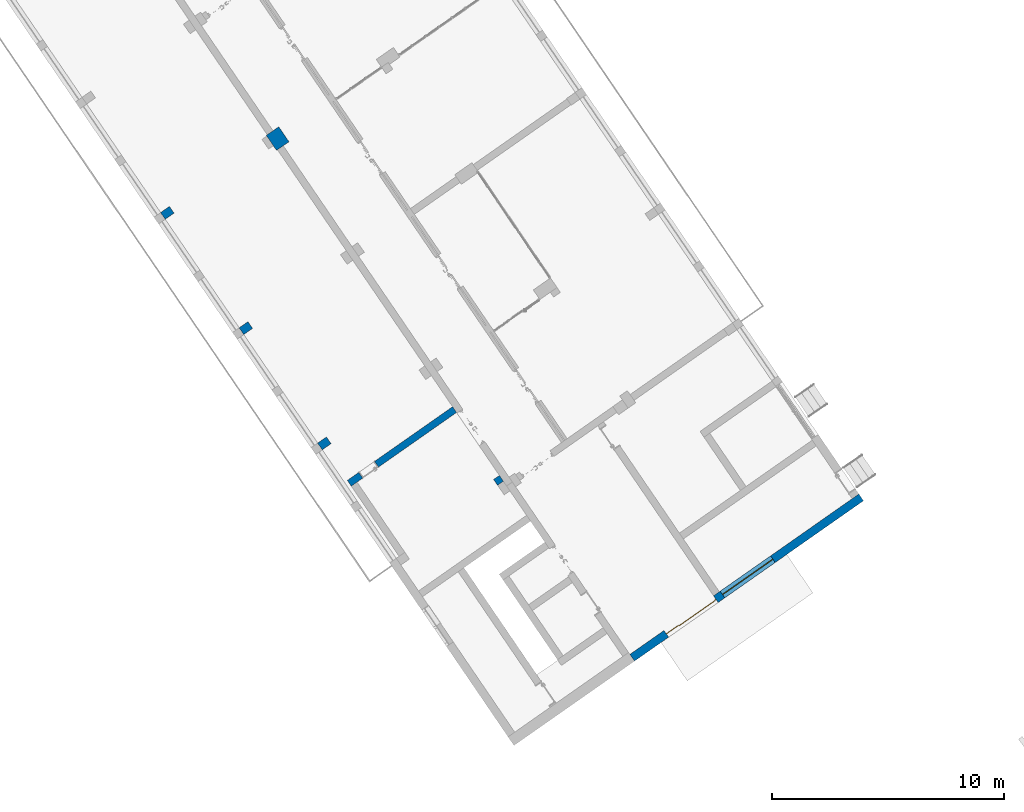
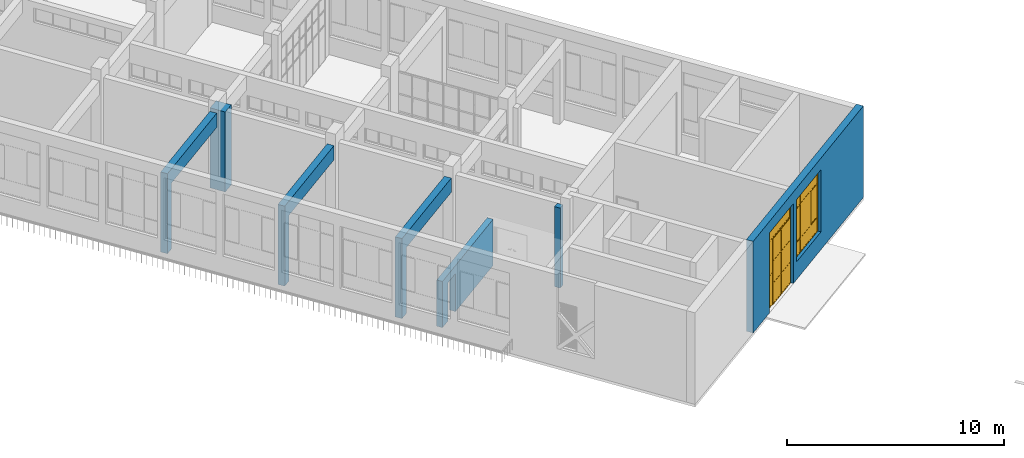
# One storey, part 62 of 157: 7 walls, 2 windows, 6 openings.
"""IFC2X3 building model written with IfcOpenShell, lengths in millimetres."""

import ifcopenshell
import ifcopenshell.guid

model = None  # the IFC model being written
_history = None  # IfcOwnerHistory: only IFC2X3 demands one
_inside = {}  # id of a spatial element -> (the spatial element, [elements in it])
_under = {}  # id of a project, library or spatial element -> (it, [spatial elements below it])
_declared = {}  # id of a project -> (the project, [libraries it declares])
_typed = {}  # id of a type object -> (the type object, [elements of that type])
_made_of = {}  # id of a material, layer set ... -> (it, [elements and type objects made of it])


def new_model(schema):
    """Start an empty IFC model of exactly this schema.

    Asked for "IFC4X3", IfcOpenShell would pick the latest addendum, in which some entities
    have other attributes; the version numbers below select the first issue.
    IFC2X3 requires an IfcOwnerHistory on every rooted entity: one is made here for all.
    """
    global model, _history
    if schema == "IFC4X3":
        model = ifcopenshell.file(schema_version=(4, 3, 0, 0))
    else:
        model = ifcopenshell.file(schema=schema)
    _inside.clear()
    _under.clear()
    _declared.clear()
    _typed.clear()
    _made_of.clear()
    _history = None
    if model.schema == "IFC2X3":
        org = make("IfcOrganization", Name="unknown")
        user = make(
            "IfcPersonAndOrganization",
            ThePerson=make("IfcPerson", FamilyName="unknown"),
            TheOrganization=org,
        )
        app = make(
            "IfcApplication",
            ApplicationDeveloper=org,
            Version="unknown",
            ApplicationFullName="unknown",
            ApplicationIdentifier="unknown",
        )
        _history = make(
            "IfcOwnerHistory",
            OwningUser=user,
            OwningApplication=app,
            ChangeAction="ADDED",
            CreationDate=0,
        )
    return model


def make(cls, **values):
    """One entity of the class cls with the attributes given. An attribute that is None is left unset."""
    return model.create_entity(
        cls, **{name: value for name, value in values.items() if value is not None}
    )


def entity(cls, *values):
    """Any entity or typed value of the class cls, its attributes in the order of the schema. None: left unset."""
    e = model.create_entity(cls)
    for i, value in enumerate(values):
        if value is not None:
            e[i] = value
    return e


def rooted(cls, **values):
    """An entity with a GlobalId (a new one), such as an element, a storey or a relation."""
    return make(cls, GlobalId=ifcopenshell.guid.new(), OwnerHistory=_history, **values)


def si_unit(unit_type, name, prefix=None):
    """IfcSIUnit, for example si_unit("LENGTHUNIT", "METRE", prefix="MILLI")."""
    return make("IfcSIUnit", UnitType=unit_type, Prefix=prefix, Name=name)


def converted_unit(unit_type, name, factor, base, dimensions=None, offset=None):
    """IfcConversionBasedUnit, such as the inch: factor (a typed value) times the base unit."""
    return make(
        "IfcConversionBasedUnit"
        if offset is None
        else "IfcConversionBasedUnitWithOffset",
        ConversionOffset=offset,
        Dimensions=None
        if dimensions is None
        else entity("IfcDimensionalExponents", *dimensions),
        UnitType=unit_type,
        Name=name,
        ConversionFactor=make(
            "IfcMeasureWithUnit", ValueComponent=factor, UnitComponent=base
        ),
    )


def derived_unit(unit_type, elements):
    """IfcDerivedUnit: a product of units, each with its exponent."""
    return make(
        "IfcDerivedUnit",
        Elements=[
            make("IfcDerivedUnitElement", Unit=unit, Exponent=power)
            for unit, power in elements
        ],
        UnitType=unit_type,
    )


def assignment(units):
    """IfcUnitAssignment: the units of a project."""
    return None if units is None else make("IfcUnitAssignment", Units=units)


def point(xyz):
    """IfcCartesianPoint."""
    return None if xyz is None else make("IfcCartesianPoint", Coordinates=xyz)


def direction(xyz):
    """IfcDirection."""
    return None if xyz is None else make("IfcDirection", DirectionRatios=xyz)


def frame(location, z_axis=None, x_axis=None):
    """IfcAxis2Placement3D, a coordinate frame: its origin and axes. An axis left out is left unset."""
    return make(
        "IfcAxis2Placement3D",
        Location=point(location),
        Axis=direction(z_axis),
        RefDirection=direction(x_axis),
    )


def frame_2d(location, x_axis=None):
    """IfcAxis2Placement2D, a coordinate frame in the plane: its origin and x axis."""
    return make(
        "IfcAxis2Placement2D", Location=point(location), RefDirection=direction(x_axis)
    )


def origin():
    """The frame at (0, 0, 0) with its axes left unset."""
    return frame((0.0, 0.0, 0.0))


def origin_2d_with_axis():
    """The frame at (0, 0) in the plane with the x axis (1, 0) written out."""
    return frame_2d((0.0, 0.0), x_axis=(1.0, 0.0))


def place(relative_to, where):
    """IfcLocalPlacement: puts the frame where relative to a parent placement (None: the world)."""
    return make(
        "IfcLocalPlacement", PlacementRelTo=relative_to, RelativePlacement=where
    )


def context(
    kind, dimensions, precision=None, world=None, true_north=None, identifier=None
):
    """IfcGeometricRepresentationContext, for example the 3D "Model" context."""
    return make(
        "IfcGeometricRepresentationContext",
        ContextIdentifier=identifier,
        ContextType=kind,
        CoordinateSpaceDimension=dimensions,
        Precision=precision,
        WorldCoordinateSystem=world,
        TrueNorth=true_north,
    )


def subcontext(parent, identifier, kind, view, scale=None):
    """IfcGeometricRepresentationSubContext, for example "Body" below "Model"."""
    return make(
        "IfcGeometricRepresentationSubContext",
        ContextIdentifier=identifier,
        ContextType=kind,
        ParentContext=parent,
        TargetScale=scale,
        TargetView=view,
    )


def project(units=None, contexts=None):
    """IfcProject with its units and contexts."""
    return rooted(
        "IfcProject",
        Name="project",
        RepresentationContexts=contexts,
        UnitsInContext=assignment(units),
    )


def spatial(cls, under=None, at=None, **own):
    """A site, building, storey or space (cls), placed at a placement, below another one or the project."""
    s = rooted(cls, ObjectPlacement=at, **own)
    if under is not None:
        _under.setdefault(under.id(), (under, []))[1].append(s)
    return s


def polyline(points):
    """IfcPolyline through the points."""
    return make("IfcPolyline", Points=[point(p) for p in points])


def profile(cls, at=None, kind="AREA", **sizes):
    """A parametric profile (cls). Its sizes go by their IFC names, for example OverallWidth=200.0."""
    return make(cls, ProfileType=kind, Position=at, **sizes)


def rectangle(**sizes):
    """IfcRectangleProfileDef."""
    return profile("IfcRectangleProfileDef", **sizes)


def outline(outer, holes=None, kind="AREA"):
    """IfcArbitraryClosedProfileDef: a profile drawn as a closed curve; with holes, ...WithVoids."""
    if holes is None:
        return make("IfcArbitraryClosedProfileDef", ProfileType=kind, OuterCurve=outer)
    return make(
        "IfcArbitraryProfileDefWithVoids",
        ProfileType=kind,
        OuterCurve=outer,
        InnerCurves=holes,
    )


def extrude(swept, where, along, depth):
    """IfcExtrudedAreaSolid: the profile swept, set in the frame where, extruded along a direction by depth."""
    return make(
        "IfcExtrudedAreaSolid",
        SweptArea=swept,
        Position=where,
        ExtrudedDirection=direction(along),
        Depth=depth,
    )


def shape(context_of_items, identifier, shape_type, items):
    """IfcShapeRepresentation: the items that make up one representation, for example the "Body"."""
    return make(
        "IfcShapeRepresentation",
        ContextOfItems=context_of_items,
        RepresentationIdentifier=identifier,
        RepresentationType=shape_type,
        Items=items,
    )


def source(mapping_origin, context_of_items, identifier, shape_type, items):
    """IfcRepresentationMap: a shape defined once, which mapped items show again and again."""
    return make(
        "IfcRepresentationMap",
        MappingOrigin=mapping_origin,
        MappedRepresentation=shape(context_of_items, identifier, shape_type, items),
    )


def transform(
    local_origin,
    x_axis=None,
    y_axis=None,
    z_axis=None,
    scale=None,
    scale2=None,
    scale3=None,
    uniform=True,
):
    """IfcCartesianTransformationOperator3D, or its non-uniform kind. x_axis, y_axis, z_axis: its Axis1, 2, 3."""
    if uniform:
        return make(
            "IfcCartesianTransformationOperator3D",
            Axis1=direction(x_axis),
            Axis2=direction(y_axis),
            LocalOrigin=point(local_origin),
            Scale=scale,
            Axis3=direction(z_axis),
        )
    return make(
        "IfcCartesianTransformationOperator3DnonUniform",
        Axis1=direction(x_axis),
        Axis2=direction(y_axis),
        LocalOrigin=point(local_origin),
        Scale=scale,
        Axis3=direction(z_axis),
        Scale2=scale2,
        Scale3=scale3,
    )


def mapped(mapping_source, mapping_target):
    """IfcMappedItem: shows the shape of a source again, moved by a transform."""
    return make(
        "IfcMappedItem", MappingSource=mapping_source, MappingTarget=mapping_target
    )


def material(Name=None, Category=None):
    """IfcMaterial."""
    return make("IfcMaterial", Name=Name, Category=Category)


def material_list(materials):
    """IfcMaterialList."""
    return make("IfcMaterialList", Materials=materials)


def layer(
    of_material, thickness, ventilated=None, Name=None, Category=None, Priority=None
):
    """IfcMaterialLayer: one layer of a wall or slab, of a material (None: an air gap)."""
    return make(
        "IfcMaterialLayer",
        Material=of_material,
        LayerThickness=thickness,
        IsVentilated=ventilated,
        Name=Name,
        Category=Category,
        Priority=Priority,
    )


def layer_set(layers, Name=None):
    """IfcMaterialLayerSet."""
    return make("IfcMaterialLayerSet", MaterialLayers=layers, LayerSetName=Name)


def layer_usage(for_layer_set, set_direction, sense, offset, extent=None):
    """IfcMaterialLayerSetUsage: how a layer set lies in its element."""
    return make(
        "IfcMaterialLayerSetUsage",
        ForLayerSet=for_layer_set,
        LayerSetDirection=set_direction,
        DirectionSense=sense,
        OffsetFromReferenceLine=offset,
        ReferenceExtent=extent,
    )


def made_of(thing, what):
    """Note that an element or type object is made of a material, layer set ...; save() writes the relation."""
    if what is not None:
        _made_of.setdefault(what.id(), (what, []))[1].append(thing)
    return thing


def type_object(cls, material=None, **own):
    """A type object (cls), such as IfcWallType, which elements share."""
    return made_of(rooted(cls, **own), material)


def type_shapes(of_type, sources):
    """Give a type object the sources (RepresentationMaps) that its elements show as mapped items."""
    of_type.RepresentationMaps = sources


def element(
    cls,
    number,
    at=None,
    inside=None,
    cuts=None,
    type_object=None,
    material=None,
    context=None,
    identifier="Body",
    shape_type=None,
    held_by="IfcProductDefinitionShape",
    body=None,
    shapes=None,
    **own,
):
    """One element of the class cls, such as IfcWall. Its Tag is "e" and its number.

    at: its placement. inside: the storey or other place that contains it. cuts: it is an
    opening in that element (IfcRelVoidsElement). A single representation is given by context,
    identifier, shape_type and body (its items); several are given by shapes. held_by: the class
    of the entity that holds the representations. save() writes the other relations.
    """
    e = rooted(cls, Tag="e%d" % number, ObjectPlacement=at, **own)
    if body is not None:
        shapes = [shape(context, identifier, shape_type, body)]
    if shapes is not None:
        e.Representation = make(held_by, Representations=shapes)
    if inside is not None:
        _inside.setdefault(inside.id(), (inside, []))[1].append(e)
    if cuts is not None:
        rooted(
            "IfcRelVoidsElement", RelatingBuildingElement=cuts, RelatedOpeningElement=e
        )
    if type_object is not None:
        _typed.setdefault(type_object.id(), (type_object, []))[1].append(e)
    return made_of(e, material)


def fill(opening, filler):
    """IfcRelFillsElement: the door or window that sits in an opening."""
    return rooted(
        "IfcRelFillsElement",
        RelatingOpeningElement=opening,
        RelatedBuildingElement=filler,
    )


def aggregate(whole, parts):
    """IfcRelAggregates: a whole, such as a stair, and the parts it consists of."""
    return rooted("IfcRelAggregates", RelatingObject=whole, RelatedObjects=parts)


def save(model, path):
    """Write the relations noted so far, then the file.

    IfcRelAggregates (storeys below a building ...), IfcRelContainedInSpatialStructure (elements
    in a storey), IfcRelDefinesByType, IfcRelAssociatesMaterial and IfcRelDeclares: one each for
    every whole, place, type object, material and project.
    """
    for whole, parts in _under.values():
        aggregate(whole, parts)
    for where, things in _inside.values():
        rooted(
            "IfcRelContainedInSpatialStructure",
            RelatedElements=things,
            RelatingStructure=where,
        )
    for kind, things in _typed.values():
        rooted("IfcRelDefinesByType", RelatedObjects=things, RelatingType=kind)
    for what, things in _made_of.values():
        rooted("IfcRelAssociatesMaterial", RelatedObjects=things, RelatingMaterial=what)
    for by, libraries in _declared.values():
        rooted("IfcRelDeclares", RelatingContext=by, RelatedDefinitions=libraries)
    model.write(path)


model = new_model("IFC2X3")

# Units and contexts
model_context = context("Model", 3, precision=0.01, world=origin(), true_north=direction((6.123031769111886e-17, 1.0)))
body_context = subcontext(model_context, "Body", "Model", "MODEL_VIEW")
ifc_project = project(units=[si_unit("LENGTHUNIT", "METRE", prefix="MILLI"), si_unit("AREAUNIT", "SQUARE_METRE"), si_unit("VOLUMEUNIT", "CUBIC_METRE"), converted_unit("PLANEANGLEUNIT", "DEGREE", entity("IfcRatioMeasure", 0.017453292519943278), si_unit("PLANEANGLEUNIT", "RADIAN"), dimensions=[0, 0, 0, 0, 0, 0, 0]), si_unit("MASSUNIT", "GRAM", prefix="KILO"), derived_unit("MASSDENSITYUNIT", [(si_unit("MASSUNIT", "GRAM", prefix="KILO"), 1), (si_unit("LENGTHUNIT", "METRE"), -3)]), derived_unit("MOMENTOFINERTIAUNIT", [(si_unit("LENGTHUNIT", "METRE"), 4)]), si_unit("TIMEUNIT", "SECOND"), si_unit("FREQUENCYUNIT", "HERTZ"), si_unit("THERMODYNAMICTEMPERATUREUNIT", "DEGREE_CELSIUS"), derived_unit("THERMALTRANSMITTANCEUNIT", [(si_unit("MASSUNIT", "GRAM", prefix="KILO"), 1), (si_unit("THERMODYNAMICTEMPERATUREUNIT", "KELVIN"), -1), (si_unit("TIMEUNIT", "SECOND"), -3)]), derived_unit("THERMALCONDUCTANCEUNIT", [(si_unit("MASSUNIT", "GRAM", prefix="KILO"), 1), (si_unit("LENGTHUNIT", "METRE"), 1), (si_unit("THERMODYNAMICTEMPERATUREUNIT", "KELVIN"), -1), (si_unit("TIMEUNIT", "SECOND"), -3)]), derived_unit("VOLUMETRICFLOWRATEUNIT", [(si_unit("LENGTHUNIT", "METRE"), 3), (si_unit("TIMEUNIT", "SECOND"), -1)]), derived_unit("MASSFLOWRATEUNIT", [(si_unit("MASSUNIT", "GRAM", prefix="KILO"), 1), (si_unit("TIMEUNIT", "SECOND"), -1)]), derived_unit("ROTATIONALFREQUENCYUNIT", [(si_unit("TIMEUNIT", "SECOND"), -1)]), si_unit("ELECTRICCURRENTUNIT", "AMPERE"), si_unit("ELECTRICVOLTAGEUNIT", "VOLT"), si_unit("POWERUNIT", "WATT"), converted_unit("FORCEUNIT", "KIP", entity("IfcRatioMeasure", 2.088543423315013e-05), si_unit("FORCEUNIT", "NEWTON"), dimensions=[1, 1, -2, 0, 0, 0, 0]), si_unit("ILLUMINANCEUNIT", "LUX"), si_unit("LUMINOUSFLUXUNIT", "LUMEN"), si_unit("LUMINOUSINTENSITYUNIT", "CANDELA"), derived_unit("USERDEFINED", [(si_unit("MASSUNIT", "GRAM", prefix="KILO"), -1), (si_unit("LENGTHUNIT", "METRE"), -2), (si_unit("TIMEUNIT", "SECOND"), 3), (si_unit("LUMINOUSFLUXUNIT", "LUMEN"), 1)]), derived_unit("USERDEFINED", [(si_unit("MASSUNIT", "GRAM", prefix="KILO"), 1), (si_unit("LENGTHUNIT", "METRE"), 3), (si_unit("TIMEUNIT", "SECOND"), -3), (si_unit("ELECTRICCURRENTUNIT", "AMPERE"), -2)]), derived_unit("USERDEFINED", [(si_unit("LENGTHUNIT", "METRE"), 2), (si_unit("TIMEUNIT", "SECOND"), -2)]), derived_unit("SOUNDPOWERUNIT", [(si_unit("MASSUNIT", "GRAM", prefix="KILO"), 1), (si_unit("LENGTHUNIT", "METRE"), 2), (si_unit("TIMEUNIT", "SECOND"), -3)]), derived_unit("SOUNDPRESSUREUNIT", [(si_unit("MASSUNIT", "GRAM", prefix="KILO"), 1), (si_unit("LENGTHUNIT", "METRE"), -1), (si_unit("TIMEUNIT", "SECOND"), -2)]), derived_unit("LINEARVELOCITYUNIT", [(si_unit("LENGTHUNIT", "METRE"), 1), (si_unit("TIMEUNIT", "SECOND"), -1)]), si_unit("PRESSUREUNIT", "PASCAL"), derived_unit("USERDEFINED", [(si_unit("LENGTHUNIT", "METRE"), -2), (si_unit("MASSUNIT", "GRAM", prefix="KILO"), 1), (si_unit("TIMEUNIT", "SECOND"), -2)]), derived_unit("LINEARFORCEUNIT", [(si_unit("MASSUNIT", "GRAM", prefix="KILO"), 1), (si_unit("LENGTHUNIT", "METRE"), 1), (si_unit("TIMEUNIT", "SECOND"), -2), (si_unit("LENGTHUNIT", "METRE"), -1)]), derived_unit("PLANARFORCEUNIT", [(si_unit("MASSUNIT", "GRAM", prefix="KILO"), 1), (si_unit("LENGTHUNIT", "METRE"), 1), (si_unit("TIMEUNIT", "SECOND"), -2), (si_unit("LENGTHUNIT", "METRE"), -2)]), derived_unit("SPECIFICHEATCAPACITYUNIT", [(si_unit("LENGTHUNIT", "METRE"), 2), (si_unit("TIMEUNIT", "SECOND"), -2), (si_unit("THERMODYNAMICTEMPERATUREUNIT", "KELVIN"), -1)]), derived_unit("VAPORPERMEABILITYUNIT", [(si_unit("TIMEUNIT", "SECOND"), 1), (si_unit("LENGTHUNIT", "METRE"), -1)]), derived_unit("DYNAMICVISCOSITYUNIT", [(si_unit("MASSUNIT", "GRAM", prefix="KILO"), 1), (si_unit("LENGTHUNIT", "METRE"), -1), (si_unit("TIMEUNIT", "SECOND"), -1)]), derived_unit("THERMALEXPANSIONCOEFFICIENTUNIT", [(si_unit("THERMODYNAMICTEMPERATUREUNIT", "KELVIN"), -1)])], contexts=[model_context])

# Site, building, storey
site_placement = place(None, frame((0.0, 0.0, 0.0), z_axis=(0.0, 0.0, 1.0), x_axis=(0.8191520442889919, 0.5735764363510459, 0.0)))
site = spatial("IfcSite", under=ifc_project, at=site_placement, Name="Default", CompositionType="ELEMENT")
building_placement = place(site_placement, origin())
building = spatial("IfcBuilding", under=site, at=building_placement, CompositionType="ELEMENT")
storey_placement = place(building_placement, origin())
storey = spatial("IfcBuildingStorey", under=building, at=storey_placement, Name="1.EG +0.00", CompositionType="ELEMENT", Elevation=-4.331468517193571e-12)

# Wall, openings, windows
ifc_material_1 = material(Name="Analytical Wall Surface_CJC")
ifc_layer_1 = layer(ifc_material_1, 350.0)
ifc_layer_set_1 = layer_set([ifc_layer_1], Name="Basic Wall:Wand_Aussen_35")
ifc_layer_usage_1 = layer_usage(ifc_layer_set_1, "AXIS2", "POSITIVE", -175.0)
wall_type_1 = type_object("IfcWallType", Name="Basic Wall:Wand_Aussen_35", PredefinedType="STANDARD", material=ifc_layer_set_1)
wall_1_placement = place(storey_placement, frame((-217575.75945480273, 52246.35891435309, 0.0)))
wall_1 = element("IfcWallStandardCase", 1, at=wall_1_placement, inside=storey, type_object=wall_type_1, material=ifc_layer_usage_1, Name="Basic Wall:Wand_Aussen_35", ObjectType="Basic Wall:Wand_Aussen_35", context=body_context, shape_type="SweptSolid", body=[
    extrude(outline(polyline([(0.0, -175.0), (12020.86173945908, -175.0), (12025.30902914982, 175.0), (11675.280775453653, 175.0), (4697.834722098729, 175.0), (4397.810412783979, 175.0), (0.0, 175.0), (0.0, -175.0)])), origin(), (0.0, 0.0, 1.0), 5150.000000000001),
])
opening_1_placement = place(wall_1_placement, frame((4390.760237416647, 175.0, 0.0)))
opening_1 = element("IfcOpeningElement", 2, at=opening_1_placement, cuts=wall_1, Name="Tuer_Aussen_NORD_EG_CJC:Tuer_Aussen_NORD_EG_CJC:1", ObjectType="Opening", context=body_context, shape_type="SweptSolid", body=[
    extrude(rectangle(XDim=4500.0, YDim=2600.0000000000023, at=frame_2d((2250.0, 1300.0), x_axis=(1.0, 0.0))), frame((0.0, 0.0, 0.0), z_axis=(0.0, -1.0, 0.0), x_axis=(0.0, 0.0, 1.0)), (0.0, 0.0, 1.0), 350.0),
])
opening_2_placement = place(wall_1_placement, frame((7390.760237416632, 175.0, 1000.0)))
opening_2 = element("IfcOpeningElement", 3, at=opening_2_placement, cuts=wall_1, Name="Fenster_Aussen_CJC:Fenster_Aussen_CJC_265x350:1", ObjectType="Opening", context=body_context, shape_type="SweptSolid", body=[
    extrude(rectangle(XDim=3499.999999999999, YDim=2650.0, at=frame_2d((1749.9999999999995, 1324.9999999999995), x_axis=(1.0, 0.0))), frame((0.0, 0.0, 0.0), z_axis=(0.0, -1.0, 0.0), x_axis=(0.0, 0.0, 1.0)), (0.0, 0.0, 1.0), 350.0),
])
ifc_material_2 = material(Name="Glass")
ifc_material_3 = material(Name="<Unnamed>")
ifc_material_list_1 = material_list([ifc_material_2, ifc_material_3])
window_style_1 = type_object("IfcWindowStyle", Name="Fenster_Aussen_CJC:Fenster_Aussen_CJC_265x350", ConstructionType="NOTDEFINED", OperationType="NOTDEFINED", ParameterTakesPrecedence=False, Sizeable=False, material=ifc_material_list_1)
shared_shape_1 = source(origin(), body_context, "Body", "SweptSolid", [
    extrude(rectangle(XDim=9.999999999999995, YDim=700.0000000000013, at=frame_2d((0.0, -5.684341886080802e-14), x_axis=(1.0, 0.0))), frame((400.0, 175.0, 2750.0), z_axis=(0.0, 0.0, 1.0), x_axis=(0.0, 1.0, 0.0)), (0.0, 0.0, 1.0), 700.0000000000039),
    extrude(rectangle(XDim=9.999999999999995, YDim=700.0000000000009, at=frame_2d((0.0, -1.4210854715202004e-13), x_axis=(1.0, 0.0))), frame((2250.0, 175.0, 2750.0), z_axis=(0.0, 0.0, 1.0), x_axis=(0.0, 1.0, 0.0)), (0.0, 0.0, 1.0), 699.9999999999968),
    extrude(rectangle(XDim=9.999999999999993, YDim=1050.0000000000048, at=frame_2d((0.0, -1.1368683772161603e-13), x_axis=(1.0, 0.0))), frame((1325.0, 175.0, 2750.0), z_axis=(0.0, 0.0, 1.0), x_axis=(0.0, 1.0, 0.0)), (0.0, 0.0, 1.0), 699.9999999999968),
    extrude(rectangle(XDim=9.999999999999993, YDim=1050.00000000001, at=origin_2d_with_axis()), frame((1325.0, 175.0, 800.0), z_axis=(0.0, 0.0, 1.0), x_axis=(0.0, 1.0, 0.0)), (0.0, 0.0, 1.0), 1899.9999999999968),
    extrude(rectangle(XDim=9.999999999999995, YDim=699.9999999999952, at=origin_2d_with_axis()), frame((2250.0, 175.0, 50.0), z_axis=(0.0, 0.0, 1.0), x_axis=(0.0, 1.0, 0.0)), (0.0, 0.0, 1.0), 700.0),
    extrude(rectangle(XDim=9.999999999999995, YDim=700.0000000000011, at=origin_2d_with_axis()), frame((400.0, 175.0, 50.0), z_axis=(0.0, 0.0, 1.0), x_axis=(0.0, 1.0, 0.0)), (0.0, 0.0, 1.0), 699.9999999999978),
    extrude(rectangle(XDim=9.999999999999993, YDim=1050.00000000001, at=origin_2d_with_axis()), frame((1325.0, 175.0, 50.0), z_axis=(0.0, 0.0, 1.0), x_axis=(0.0, 1.0, 0.0)), (0.0, 0.0, 1.0), 699.9999999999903),
    extrude(rectangle(XDim=9.999999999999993, YDim=670.0000000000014, at=frame_2d((2.220446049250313e-15, -5.684341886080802e-14), x_axis=(1.0, 0.0))), frame((400.0, 145.0, 815.0), z_axis=(0.0, 0.0, 1.0), x_axis=(0.0, 1.0, 0.0)), (0.0, 0.0, 1.0), 1870.0000000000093),
    extrude(rectangle(XDim=9.999999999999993, YDim=670.0000000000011, at=frame_2d((0.0, -1.4210854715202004e-13), x_axis=(1.0, 0.0))), frame((2250.0, 145.0, 815.0), z_axis=(0.0, 0.0, 1.0), x_axis=(0.0, 1.0, 0.0)), (0.0, 0.0, 1.0), 1870.0000000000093),
    extrude(outline(polyline([(-365.0, -965.0), (365.0, -965.0), (365.0, 965.0), (-365.0, 965.0), (-365.0, -965.0)]), holes=[polyline([(-335.0, -935.0), (-335.0, 935.0), (335.0, 935.0), (335.0, -935.0), (-335.0, -935.0)])]), frame((2250.0, 130.0, 1750.0), z_axis=(0.0, 1.0, 0.0), x_axis=(1.0, 0.0, 0.0)), (0.0, 0.0, 1.0), 29.999999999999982),
    extrude(outline(polyline([(-365.0, -965.0), (365.0, -965.0), (365.0, 965.0), (-365.0, 965.0), (-365.0, -965.0)]), holes=[polyline([(-335.0, -935.0), (-335.0, 935.0), (335.0, 935.0), (335.0, -935.0), (-335.0, -935.0)])]), frame((400.0, 130.0, 1750.0), z_axis=(0.0, 1.0, 0.0), x_axis=(1.0, 0.0, 0.0)), (0.0, 0.0, 1.0), 29.999999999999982),
    extrude(outline(polyline([(-1325.0, -1750.0), (1325.0, -1750.0), (1325.0, 1750.0), (-1325.0, 1750.0), (-1325.0, -1750.0)]), holes=[polyline([(-575.0, -950.0), (-1275.0, -950.0), (-1275.0, 950.0), (-575.0, 950.0), (-575.0, -950.0)]), polyline([(1275.0, -950.0), (575.0, -950.0), (575.0, 950.0), (1275.0, 950.0), (1275.0, -950.0)]), polyline([(575.0, -1700.0), (575.0, -1000.0), (1275.0, -1000.0), (1275.0, -1700.0), (575.0, -1700.0)]), polyline([(-525.0, -1000.0), (525.0, -1000.0), (525.0, -1700.0), (-525.0, -1700.0), (-525.0, -1000.0)]), polyline([(-1275.0, -1700.0), (-1275.0, -1000.0), (-575.0, -1000.0), (-575.0, -1700.0), (-1275.0, -1700.0)]), polyline([(-1275.0, 1000.0), (-1275.0, 1700.0), (-575.0, 1700.0), (-575.0, 1000.0), (-1275.0, 1000.0)]), polyline([(-525.0, 1000.0), (-525.0, 1700.0), (525.0, 1700.0), (525.0, 1000.0), (-525.0, 1000.0)]), polyline([(1275.0, 1700.0), (1275.0, 1000.0), (575.0, 1000.0), (575.0, 1700.0), (1275.0, 1700.0)]), polyline([(525.0, 950.0), (525.0, -950.0), (-525.0, -950.0), (-525.0, 950.0), (525.0, 950.0)])]), frame((1325.0, 160.0, 1750.0), z_axis=(0.0, 1.0, 0.0), x_axis=(1.0, 0.0, 0.0)), (0.0, 0.0, 1.0), 30.000000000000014),
])
type_shapes(window_style_1, [shared_shape_1])
window_1_placement = place(opening_2_placement, frame((0.0, 0.0, 0.0), z_axis=(0.0, 0.0, 1.0), x_axis=(-1.0, 0.0, 0.0)))
window_1 = element("IfcWindow", 4, at=window_1_placement, inside=storey, type_object=window_style_1, material=ifc_material_list_1, Name="Fenster_Aussen_CJC:Fenster_Aussen_CJC_265x350", ObjectType="Fenster_Aussen_CJC:Fenster_Aussen_CJC_265x350", OverallHeight=3499.999999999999, OverallWidth=2649.999999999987, context=body_context, shape_type="MappedRepresentation", body=[
    mapped(shared_shape_1, transform((0.0, 0.0, 0.0), scale=1.0)),
])
fill(opening_2, window_1)
ifc_material_list_2 = material_list([ifc_material_3, ifc_material_2])
window_style_2 = type_object("IfcWindowStyle", Name="Tuer_Aussen_NORD_EG_CJC:Tuer_Aussen_NORD_EG_CJC", ConstructionType="NOTDEFINED", OperationType="NOTDEFINED", ParameterTakesPrecedence=False, Sizeable=False, material=ifc_material_list_2)
shared_shape_2 = source(origin(), body_context, "Body", "SweptSolid", [
    extrude(outline(polyline([(-475.0, -1850.0), (475.0, -1850.0), (475.0, 1850.0), (-475.0, 1850.0), (-475.0, -1850.0)]), holes=[polyline([(425.0, 700.0), (-425.0, 700.0), (-425.0, 1800.0), (425.0, 1800.0), (425.0, 700.0)]), polyline([(-425.0, -1800.0), (-425.0, -600.0), (425.0, -600.0), (425.0, -1800.0), (-425.0, -1800.0)]), polyline([(425.0, 650.0), (425.0, -550.0), (-425.0, -550.0), (-425.0, 650.0), (425.0, 650.0)])]), frame((525.0, 190.0, 1850.0), z_axis=(0.0, 1.0, 0.0), x_axis=(1.0, 0.0, 0.0)), (0.0, 0.0, 1.0), 30.000000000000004),
    extrude(outline(polyline([(-475.0, -1850.0), (475.0, -1850.0), (475.0, 1850.0), (-475.0, 1850.0), (-475.0, -1850.0)]), holes=[polyline([(425.0, 700.0), (-425.0, 700.0), (-425.0, 1800.0), (425.0, 1800.0), (425.0, 700.0)]), polyline([(-425.0, -1800.0), (-425.0, -600.0), (425.0, -600.0), (425.0, -1800.0), (-425.0, -1800.0)]), polyline([(425.0, 650.0), (425.0, -550.0), (-425.0, -550.0), (-425.0, 650.0), (425.0, 650.0)])]), frame((1475.0, 190.0, 1850.0), z_axis=(0.0, 1.0, 0.0), x_axis=(1.0, 0.0, 0.0)), (0.0, 0.0, 1.0), 30.000000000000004),
    extrude(outline(polyline([(-281.2500000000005, -2000.0), (318.7500000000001, -2000.0), (318.7500000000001, 2500.0), (-281.25000000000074, 2500.0), (-281.2500000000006, 2450.0), (268.7500000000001, 2450.0), (268.7500000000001, 750.0), (-281.2499999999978, 750.0), (-281.24999999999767, 700.0), (268.7500000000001, 700.0), (268.7500000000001, -1200.0), (-281.2500000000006, -1200.0), (-281.2500000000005, -1250.0), (268.7500000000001, -1250.0), (268.7500000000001, -1950.0), (-281.2500000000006, -1950.0), (-281.2500000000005, -2000.0)])), frame((2281.25, 160.0, 2500.0), z_axis=(0.0, 1.0, 0.0), x_axis=(1.0, 0.0, 0.0)), (0.0, 0.0, 1.0), 30.000000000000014),
    extrude(outline(polyline([(-1000.0, -2450.0), (1000.0, -2450.0), (1000.0, 2050.0), (950.0, 2050.0), (950.0, -1650.0), (-950.0, -1650.0), (-950.0, 2050.0), (-1000.0, 2050.0), (-1000.0, -2450.0)]), holes=[polyline([(-950.0, -2400.0), (-950.0, -1700.0), (950.0, -1700.0), (950.0, -2400.0), (-950.0, -2400.0)])]), frame((1000.0, 160.0, 2050.0), z_axis=(0.0, 1.0, 0.0), x_axis=(1.0, 0.0, 0.0)), (0.0, 0.0, 1.0), 30.000000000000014),
    extrude(rectangle(XDim=10.00000000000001, YDim=850.0, at=frame_2d((-2.220446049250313e-15, 0.0), x_axis=(1.0, 0.0))), frame((525.0, 205.0, 2450.0), z_axis=(0.0, 0.0, 1.0), x_axis=(0.0, 1.0, 0.0)), (0.0, 0.0, 1.0), 1199.9999999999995),
    extrude(rectangle(XDim=10.00000000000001, YDim=850.0, at=frame_2d((-2.220446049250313e-15, 0.0), x_axis=(1.0, 0.0))), frame((525.0, 205.0, 1200.0), z_axis=(0.0, 0.0, 1.0), x_axis=(0.0, 1.0, 0.0)), (0.0, 0.0, 1.0), 1200.0),
    extrude(rectangle(XDim=10.00000000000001, YDim=850.0000000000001, at=frame_2d((-2.220446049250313e-15, -8.526512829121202e-14), x_axis=(1.0, 0.0))), frame((1475.0, 205.0, 2450.0), z_axis=(0.0, 0.0, 1.0), x_axis=(0.0, 1.0, 0.0)), (0.0, 0.0, 1.0), 1199.9999999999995),
    extrude(rectangle(XDim=10.00000000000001, YDim=850.0, at=frame_2d((-2.220446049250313e-15, -8.526512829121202e-14), x_axis=(1.0, 0.0))), frame((1475.0, 205.0, 1200.0), z_axis=(0.0, 0.0, 1.0), x_axis=(0.0, 1.0, 0.0)), (0.0, 0.0, 1.0), 1200.0),
    extrude(rectangle(XDim=9.999999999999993, YDim=1900.0000000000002, at=origin_2d_with_axis()), frame((1000.0, 175.0, 3750.0), z_axis=(0.0, 0.0, 1.0), x_axis=(0.0, 1.0, 0.0)), (0.0, 0.0, 1.0), 700.0),
    extrude(rectangle(XDim=9.999999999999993, YDim=550.0000000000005, at=frame_2d((0.0, -5.684341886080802e-14), x_axis=(1.0, 0.0))), frame((2275.0, 175.0, 3750.0), z_axis=(0.0, 0.0, 1.0), x_axis=(0.0, 1.0, 0.0)), (0.0, 0.0, 1.0), 700.0000000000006),
    extrude(rectangle(XDim=9.999999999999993, YDim=549.9999999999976, at=frame_2d((0.0, 1.1368683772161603e-13), x_axis=(1.0, 0.0))), frame((2275.0, 175.0, 1800.0), z_axis=(0.0, 0.0, 1.0), x_axis=(0.0, 1.0, 0.0)), (0.0, 0.0, 1.0), 1899.9999999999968),
    extrude(rectangle(XDim=10.00000000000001, YDim=850.0, at=frame_2d((-2.220446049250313e-15, 0.0), x_axis=(1.0, 0.0))), frame((525.0, 205.0, 50.0), z_axis=(0.0, 0.0, 1.0), x_axis=(0.0, 1.0, 0.0)), (0.0, 0.0, 1.0), 1099.9999999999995),
    extrude(rectangle(XDim=9.999999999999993, YDim=550.0000000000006, at=origin_2d_with_axis()), frame((2275.0, 175.0, 50.0), z_axis=(0.0, 0.0, 1.0), x_axis=(0.0, 1.0, 0.0)), (0.0, 0.0, 1.0), 1700.0),
    extrude(rectangle(XDim=10.00000000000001, YDim=850.0000000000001, at=frame_2d((-2.220446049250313e-15, -8.526512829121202e-14), x_axis=(1.0, 0.0))), frame((1475.0, 205.0, 50.0), z_axis=(0.0, 0.0, 1.0), x_axis=(0.0, 1.0, 0.0)), (0.0, 0.0, 1.0), 1099.9999999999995),
])
type_shapes(window_style_2, [shared_shape_2])
window_2_placement = place(opening_1_placement, frame((0.0, 0.0, 0.0), z_axis=(0.0, 0.0, 1.0), x_axis=(-1.0, 0.0, 0.0)))
window_2 = element("IfcWindow", 5, at=window_2_placement, inside=storey, type_object=window_style_2, material=ifc_material_list_2, Name="Tuer_Aussen_NORD_EG_CJC:Tuer_Aussen_NORD_EG_CJC", ObjectType="Tuer_Aussen_NORD_EG_CJC:Tuer_Aussen_NORD_EG_CJC", OverallHeight=4500.0, OverallWidth=2599.999999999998, context=body_context, shape_type="MappedRepresentation", body=[
    mapped(shared_shape_2, transform((0.0, 0.0, 0.0), scale=1.0)),
])
fill(opening_1, window_2)

# Wall
ifc_layer_2 = layer(ifc_material_1, 300.0)
ifc_layer_set_2 = layer_set([ifc_layer_2], Name="Basic Wall:Wand_Innen_30")
ifc_layer_usage_2 = layer_usage(ifc_layer_set_2, "AXIS2", "NEGATIVE", 150.0)
wall_type_2 = type_object("IfcWallType", Name="Basic Wall:Wand_Innen_30", PredefinedType="STANDARD", material=ifc_layer_set_2)
wall_2_placement = place(storey_placement, frame((-218064.0479768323, 61797.33694938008, 0.0)))
element("IfcWallStandardCase", 6, at=wall_2_placement, inside=storey, type_object=wall_type_2, material=ifc_layer_usage_2, Name="Basic Wall:Wand_Innen_30", ObjectType="Basic Wall:Wand_Innen_30", context=body_context, shape_type="SweptSolid", body=[
    extrude(outline(polyline([(303.23389891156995, -150.0), (307.0551189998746, 150.0), (0.0, 150.0), (0.0, -150.0), (303.23389891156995, -150.0)])), origin(), (0.0, 0.0, 1.0), 4500.0),
])

# Wall, opening
wall_3_placement = place(storey_placement, frame((-217711.43334506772, 65374.16673502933, 0.0), z_axis=(0.0, 0.0, 1.0), x_axis=(-1.0, 0.0, 0.0)))
wall_3 = element("IfcWallStandardCase", 7, at=wall_3_placement, inside=storey, type_object=wall_type_2, material=ifc_layer_usage_2, Name="Basic Wall:Wand_Innen_30", ObjectType="Basic Wall:Wand_Innen_30", context=body_context, shape_type="SweptSolid", body=[
    extrude(outline(polyline([(0.0, -150.0), (5525.0, -150.0), (5528.821220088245, 150.0), (5228.796884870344, 150.0), (3.8212200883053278, 150.0), (0.0, -150.0)])), origin(), (0.0, 0.0, 1.0), 2600.0),
])
opening_3_placement = place(wall_3_placement, frame((4098.796884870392, -150.0, 0.0)))
element("IfcOpeningElement", 8, at=opening_3_placement, cuts=wall_3, Name="Doors_IntSgl:75x210:1", ObjectType="Opening", context=body_context, shape_type="SweptSolid", body=[
    extrude(rectangle(XDim=2150.000000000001, YDim=829.9999999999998, at=frame_2d((1075.0000000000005, 414.9999999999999), x_axis=(1.0, 0.0))), frame((0.0, 0.0, 0.0), z_axis=(0.0, 1.0, 0.0), x_axis=(0.0, 0.0, 1.0)), (0.0, 0.0, 1.0), 300.0),
])

ifc_layer_3 = layer(ifc_material_1, 350.0)
ifc_layer_set_3 = layer_set([ifc_layer_3], Name="Basic Wall:Wand_Innen_35")
ifc_layer_usage_3 = layer_usage(ifc_layer_set_3, "AXIS2", "NEGATIVE", 175.0)
wall_type_3 = type_object("IfcWallType", Name="Basic Wall:Wand_Innen_35", PredefinedType="STANDARD", material=ifc_layer_set_3)
wall_4_placement = place(storey_placement, frame((-223288.99286061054, 73396.35891435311, 0.0)))
wall_4 = element("IfcWallStandardCase", 9, at=wall_4_placement, inside=storey, type_object=wall_type_3, material=ifc_layer_usage_3, Name="Basic Wall:Wand_Innen_35", ObjectType="Basic Wall:Wand_Innen_35", context=body_context, shape_type="SweptSolid", body=[
    extrude(rectangle(XDim=5378.149586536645, YDim=350.00000000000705, at=frame_2d((2689.0747932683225, -1.3358203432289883e-12), x_axis=(-1.0, 0.0))), origin(), (0.0, 0.0, 1.0), 4500.0),
])
opening_4_placement = place(wall_4_placement, origin())
element("IfcOpeningElement", 10, at=opening_4_placement, cuts=wall_4, Name="Basic Wall:Wand_Innen_35", ObjectType="Opening", context=body_context, shape_type="SweptSolid", body=[
    extrude(rectangle(XDim=3700.0000000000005, YDim=4916.084830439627, at=frame_2d((1.7280399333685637e-11, 0.0), x_axis=(0.0, 1.0))), frame((2920.1071713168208, 175.0, 1850.0), z_axis=(0.0, -1.0, 0.0), x_axis=(1.0, 0.0, 0.0)), (0.0, 0.0, 1.0), 350.0),
])

wall_5_placement = place(storey_placement, frame((-223212.6153345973, 79395.87276745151, 0.0)))
wall_5 = element("IfcWallStandardCase", 11, at=wall_5_placement, inside=storey, type_object=wall_type_3, material=ifc_layer_usage_3, Name="Basic Wall:Wand_Innen_35", ObjectType="Basic Wall:Wand_Innen_35", context=body_context, shape_type="SweptSolid", body=[
    extrude(rectangle(XDim=5378.149586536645, YDim=349.9999999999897, at=frame_2d((2689.0747932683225, -1.3358203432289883e-12), x_axis=(-1.0, 0.0))), origin(), (0.0, 0.0, 1.0), 4499.999999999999),
])
opening_5_placement = place(wall_5_placement, origin())
element("IfcOpeningElement", 12, at=opening_5_placement, cuts=wall_5, Name="Basic Wall:Wand_Innen_35", ObjectType="Opening", context=body_context, shape_type="SweptSolid", body=[
    extrude(rectangle(XDim=3700.0000000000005, YDim=4916.084830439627, at=frame_2d((1.7280399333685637e-11, 0.0), x_axis=(0.0, 1.0))), frame((2920.1071713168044, 175.0, 1850.0), z_axis=(0.0, -1.0, 0.0), x_axis=(1.0, 0.0, 0.0)), (0.0, 0.0, 1.0), 350.0),
])

wall_6_placement = place(storey_placement, frame((-223367.29302507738, 67396.35891435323, 0.0)))
wall_6 = element("IfcWallStandardCase", 13, at=wall_6_placement, inside=storey, type_object=wall_type_3, material=ifc_layer_usage_3, Name="Basic Wall:Wand_Innen_35", ObjectType="Basic Wall:Wand_Innen_35", context=body_context, shape_type="SweptSolid", body=[
    extrude(rectangle(XDim=5378.149586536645, YDim=350.00000000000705, at=frame_2d((2689.0747932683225, -1.3358203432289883e-12), x_axis=(-1.0, 0.0))), origin(), (0.0, 0.0, 1.0), 4500.0),
])
opening_6_placement = place(wall_6_placement, origin())
element("IfcOpeningElement", 14, at=opening_6_placement, cuts=wall_6, Name="Basic Wall:Wand_Innen_35", ObjectType="Opening", context=body_context, shape_type="SweptSolid", body=[
    extrude(rectangle(XDim=3699.9999999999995, YDim=4916.084830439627, at=frame_2d((1.7280399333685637e-11, 0.0), x_axis=(0.0, 1.0))), frame((2920.107171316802, 175.0, 1850.0), z_axis=(0.0, -1.0, 0.0), x_axis=(1.0, 0.0, 0.0)), (0.0, 0.0, 1.0), 350.0),
])

# Wall
ifc_layer_4 = layer(ifc_material_1, 650.0)
ifc_layer_set_4 = layer_set([ifc_layer_4], Name="Basic Wall:Wand_Innen_65")
ifc_layer_usage_4 = layer_usage(ifc_layer_set_4, "AXIS2", "NEGATIVE", 325.0)
wall_type_4 = type_object("IfcWallType", Name="Basic Wall:Wand_Innen_65", PredefinedType="STANDARD", material=ifc_layer_set_4)
wall_7_placement = place(storey_placement, frame((-217265.72557973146, 78900.4982336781, 0.0), z_axis=(0.0, 0.0, 1.0), x_axis=(0.012736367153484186, 0.9999188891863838, 0.0)))
element("IfcWallStandardCase", 15, at=wall_7_placement, inside=storey, type_object=wall_type_4, material=ifc_layer_usage_4, Name="Basic Wall:Wand_Innen_65", ObjectType="Basic Wall:Wand_Innen_65", context=body_context, shape_type="SweptSolid", body=[
    extrude(rectangle(XDim=779.9999999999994, YDim=650.0000000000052, at=frame_2d((389.9999999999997, -6.252776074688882e-13), x_axis=(-1.0, 0.0))), origin(), (0.0, 0.0, 1.0), 4500.000000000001),
])

save(model, "model.ifc")
